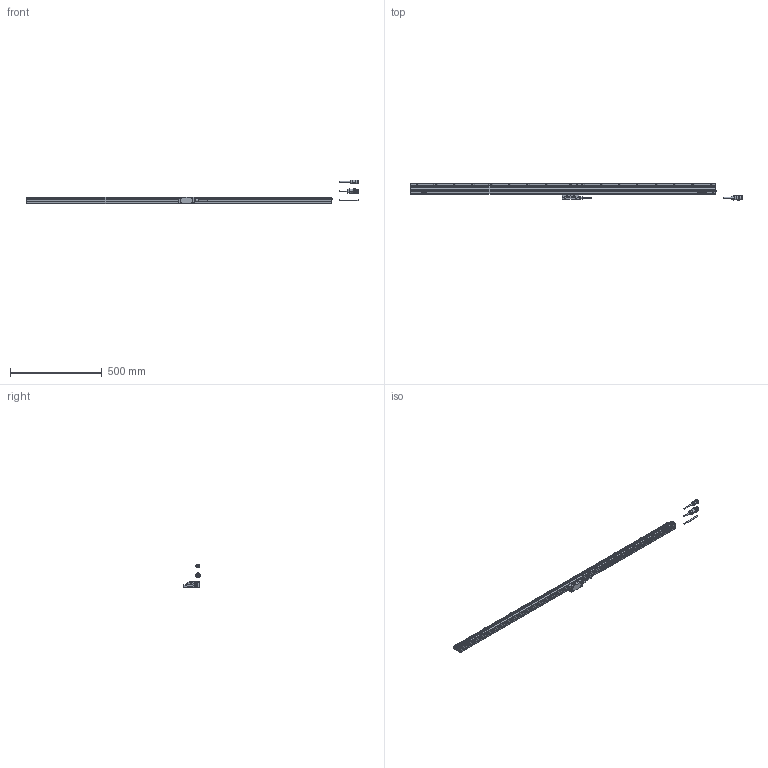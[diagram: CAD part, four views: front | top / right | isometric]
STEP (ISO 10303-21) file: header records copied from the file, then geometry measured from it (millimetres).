
FILE_DESCRIPTION(('Creo Elements/Direct Modeling STEP Export'),'2;1');
FILE_NAME('AT402E-1540.stp','2018-02-21T13:11:27',(''),(''),'Creo Elements/Direct Modeling STEP processor for AP214 (Solid Model)','Creo Elements/Direct Modeling 18.1B 29-Sep-2012 (C) Parametric Technology GmbH','');
FILE_SCHEMA(('AUTOMOTIVE_DESIGN { 1 0 10303 214 1 1 1 1 }'));
Length unit declared in the file: millimetre
Products named in the file (6): Scale_1540; Connector_typeB; Connector_typeA; Connector_typeC; Detector_Head; AT402E-1540
Assembly tree (5 placements, depth 2):
  AT402E-1540
    Detector_Head
    Connector_typeC
    Connector_typeA
    Connector_typeB
    Scale_1540
Bounding box: 1809.57 x 90 x 130.25 mm (x, y, z)
Volume: 2778184.2 mm3; surface area: 362424.4 mm2
Topology: 5 solids, 5 shells, 1419 faces, 4201 edges, 2840 vertices
Faces by surface type: plane 794, cylinder 491, torus 50, bspline 46, cone 26, sphere 12
Entity records: 52804 total; most frequent: CARTESIAN_POINT 15289, ORIENTED_EDGE 8402, DIRECTION 7285, EDGE_CURVE 4201, VERTEX_POINT 2840, VECTOR 2449, LINE 2449, AXIS2_PLACEMENT_3D 2418
